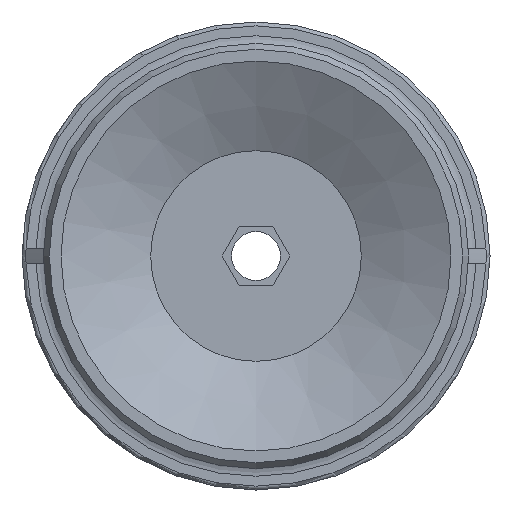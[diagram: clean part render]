
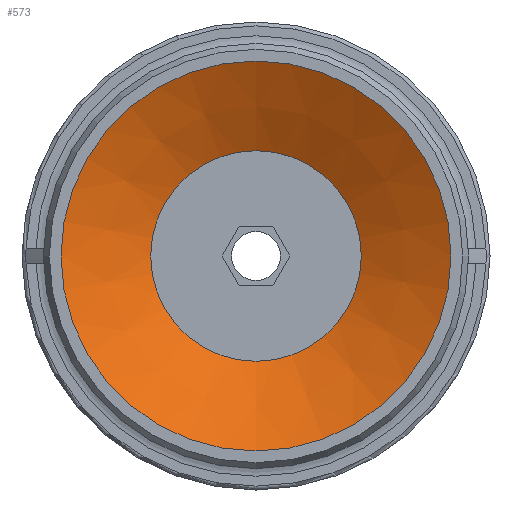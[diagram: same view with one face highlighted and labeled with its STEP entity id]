
A CAD part, front view. The second image highlights one B-rep face of the part: STEP entity #573.
In plain terms, the highlighted conical face has half-angle 61.631 degrees and reference radius 5.4 mm.
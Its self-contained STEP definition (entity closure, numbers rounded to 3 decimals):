
#573=ADVANCED_FACE('',(#862,#863),#864,.F.);
#862=FACE_BOUND('',#1165,.T.);
#863=FACE_OUTER_BOUND('',#1166,.T.);
#864=CONICAL_SURFACE('',#1167,5.4,1.076);
#1165=EDGE_LOOP('',(#2003));
#1166=EDGE_LOOP('',(#2004));
#1167=AXIS2_PLACEMENT_3D('',#2005,#2006,#2007);
#2003=ORIENTED_EDGE('',*,*,#2270,.F.);
#2004=ORIENTED_EDGE('',*,*,#2292,.T.);
#2005=CARTESIAN_POINT('',(0.0,2.484,0.0));
#2006=DIRECTION('',(-0.0,-1.0,0.));
#2007=DIRECTION('',(0.0,0.,-1.0));
#2270=EDGE_CURVE('',#2665,#2665,#2666,.T.);
#2292=EDGE_CURVE('',#2699,#2699,#2700,.T.);
#2665=VERTEX_POINT('',#3501);
#2666=CIRCLE('',#3502,5.4);
#2699=VERTEX_POINT('',#3547);
#2700=CIRCLE('',#3548,10.0);
#3501=CARTESIAN_POINT('',(0.0,2.484,-5.4));
#3502=AXIS2_PLACEMENT_3D('',#3883,#3884,#3885);
#3547=CARTESIAN_POINT('',(0.0,0.,-10.0));
#3548=AXIS2_PLACEMENT_3D('',#3925,#3926,#3927);
#3883=CARTESIAN_POINT('',(0.0,2.484,0.0));
#3884=DIRECTION('',(0.0,-1.0,0.));
#3885=DIRECTION('',(0.0,0.,-1.0));
#3925=CARTESIAN_POINT('',(0.0,0.0,0.0));
#3926=DIRECTION('',(0.0,-1.0,0.));
#3927=DIRECTION('',(0.0,0.,-1.0));
